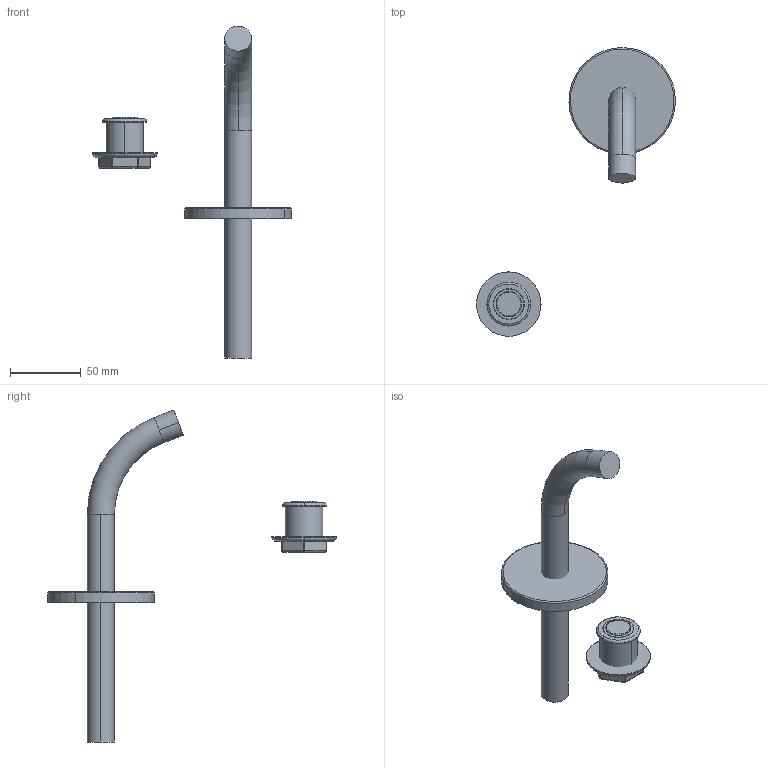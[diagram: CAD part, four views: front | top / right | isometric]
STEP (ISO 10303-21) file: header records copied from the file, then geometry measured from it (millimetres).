
FILE_DESCRIPTION (( 'STEP AP203' ), '1' );
FILE_NAME ('6401Z(2024).STEP', '2024-12-09T10:27:27', ( '' ), ( '' ), 'SwSTEP 2.0', 'SolidWorks 2024', '' );
FILE_SCHEMA (( 'CONFIG_CONTROL_DESIGN' ));
Length unit declared in the file: millimetre
Products named in the file (1): 6401Z(2024)
Bounding box: 140.06 x 203.44 x 233.87 mm (x, y, z)
Volume: 138579.4 mm3; surface area: 35857.3 mm2
Topology: 5 solids, 5 shells, 78 faces, 162 edges, 95 vertices
Faces by surface type: cylinder 29, bspline 20, plane 19, torus 6, cone 4
Entity records: 2358 total; most frequent: CARTESIAN_POINT 646, DIRECTION 379, ORIENTED_EDGE 320, AXIS2_PLACEMENT_3D 164, EDGE_CURVE 160, CIRCLE 105, VERTEX_POINT 95, EDGE_LOOP 81
